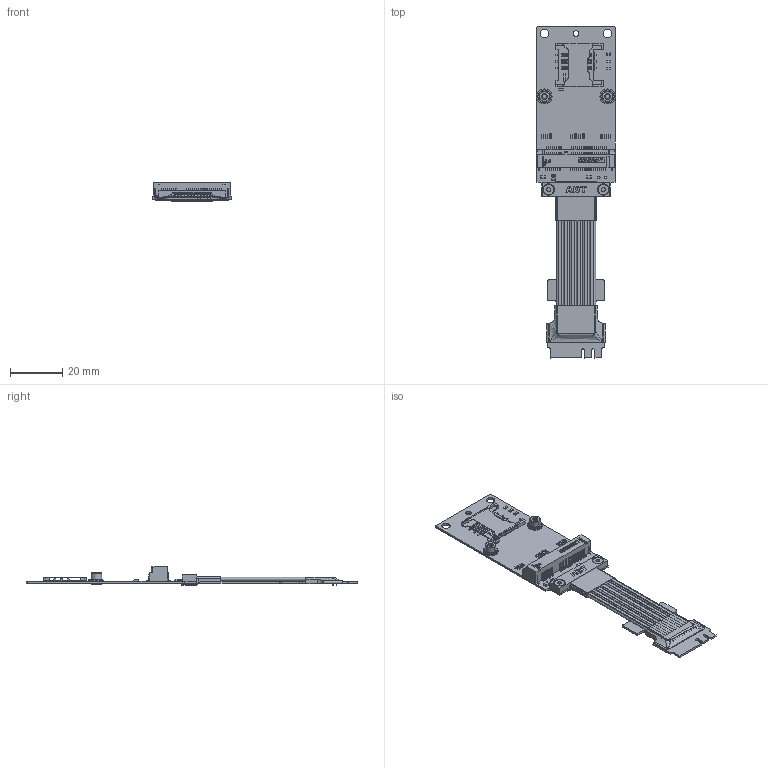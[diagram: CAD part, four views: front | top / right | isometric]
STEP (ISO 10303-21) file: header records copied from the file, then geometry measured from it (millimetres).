
FILE_DESCRIPTION(('Open CASCADE Model'),'2;1');
FILE_NAME('Open CASCADE Shape Model','2021-08-23T11:47:39',('Author'),( 'Open CASCADE'),'Open CASCADE STEP processor 6.8','Open CASCADE 6.8' ,'Unknown');
FILE_SCHEMA(('AUTOMOTIVE_DESIGN { 1 0 10303 214 1 1 1 1 }'));
Length unit declared in the file: millimetre
Products named in the file (184): PCB; Board; Open CASCADE STEP translator 6.8 19.1.1; C12; C0603_060; C1; C2; C3; C4; C5; C6; CAP0805; C7; C8; C9; C10; C11; CN4; Mini-Connector-20210714; D1; LED_AP1608; R1; 0603_RES; Capsule; Encapsulation; TopCover; R2; R3; R4; R5; Designator4; C701-6pin; Free-Models; R54SF_V4.0_热缩管_5S__202106024(1)_RGB2960685; G0030_RGB9411503; Hexagon_nut_ISO_4032_(DIN_934)_-_M2_RGB9411503; Tape14x5_RGB0; R1SPAD4; M2X0.4P-2.8_RGB14277081; G0038_RGB6759642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
Assembly tree (253 placements, depth 4):
  PCB
    Board
      Open CASCADE STEP translator 6.8 19.1.1
    C12
      C0603_060
      C0603_060
      C0603_060
    C1
      C0603_060
      C0603_060
      C0603_060
    C2
      C0603_060
      C0603_060
      C0603_060
    C3
      C0603_060
      C0603_060
      C0603_060
    C4
      C0603_060
      C0603_060
      C0603_060
    C5
      C0603_060
      C0603_060
      C0603_060
    C6
      CAP0805
    C7
      CAP0805
    C8
      C0603_060
      C0603_060
      C0603_060
    C9
      C0603_060
      C0603_060
      C0603_060
    C10
      C0603_060
      C0603_060
      C0603_060
    C11
      C0603_060
      C0603_060
      C0603_060
    CN4
      Mini-Connector-20210714  x2
      Mini-Connector-20210714
    D1
      LED_AP1608
    R1
      0603_RES
        Capsule
        Encapsulation  x2
        TopCover
    R2
      0603_RES
        Capsule
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Bounding box: 30 x 127.5 x 7.18 mm (x, y, z)
Volume: 6784.8 mm3; surface area: 25371.3 mm2
Topology: 199 solids, 314 shells, 11325 faces, 29663 edges, 19024 vertices
Faces by surface type: plane 6247, cylinder 3219, bspline 1085, revolution 576, sphere 80, cone 49, torus 48, extrusion 14, offset 7
Full cylindrical faces by diameter (mm): 0.25 x60, 0.28 x60, 0.55 x24, 0.58 x24, 0.8 x12, 0.85 x3, 0.9 x2, 1.1 x1, 1.6 x1, 2.2 x5, 3.3 x4, 4.4 x2
Entity records: 327286 total; most frequent: CARTESIAN_POINT 81788, ORIENTED_EDGE 37868, DIRECTION 35944, EDGE_CURVE 19066, VECTOR 12834, LINE 12813, VERTEX_POINT 12280, AXIS2_PLACEMENT_3D 11363
